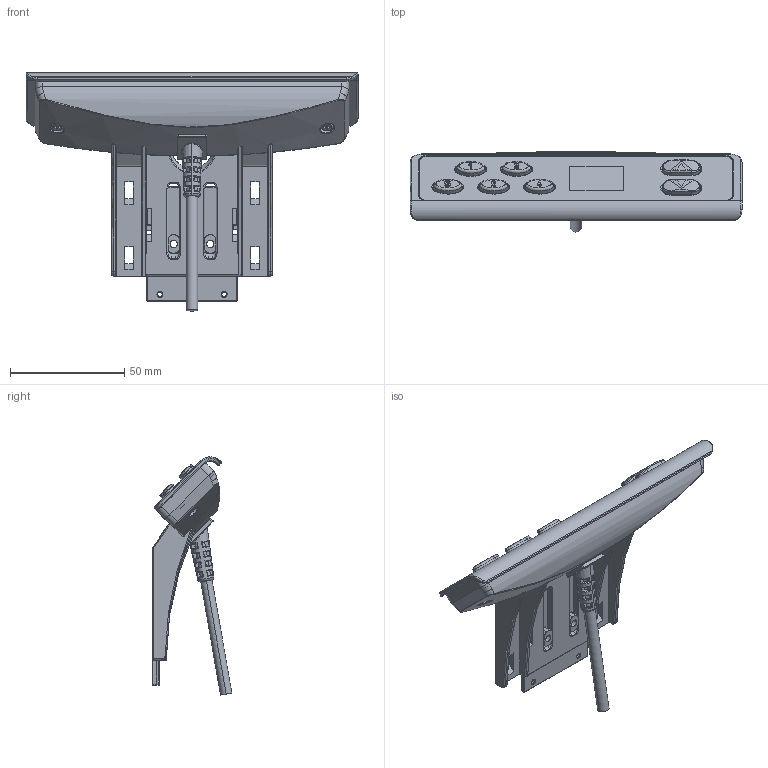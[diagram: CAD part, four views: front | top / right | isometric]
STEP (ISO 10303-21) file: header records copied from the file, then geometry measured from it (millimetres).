
FILE_DESCRIPTION((''),'2;1');
FILE_NAME('DKP3_ASM','2016-04-29T',('user'),(''),'PRO/ENGINEER BY PARAMETRIC TECHNOLOGY CORPORATION, 2008090','PRO/ENGINEER BY PARAMETRIC TECHNOLOGY CORPORATION, 2008090','');
FILE_SCHEMA(('CONFIG_CONTROL_DESIGN'));
Length unit declared in the file: millimetre
Products named in the file (1): DKP3_ASM
Bounding box: 145 x 34.86 x 104.05 mm (x, y, z)
Volume: 49098.9 mm3; surface area: 48503.6 mm2
Topology: 2 solids, 8 shells, 1291 faces, 3421 edges, 2188 vertices
Faces by surface type: plane 559, cylinder 380, torus 113, bspline 103, extrusion 94, cone 30, sphere 12
Entity records: 49838 total; most frequent: CARTESIAN_POINT 18895, ORIENTED_EDGE 6798, DIRECTION 5912, EDGE_CURVE 3399, VERTEX_POINT 2184, AXIS2_PLACEMENT_3D 2055, VECTOR 1802, LINE 1708
